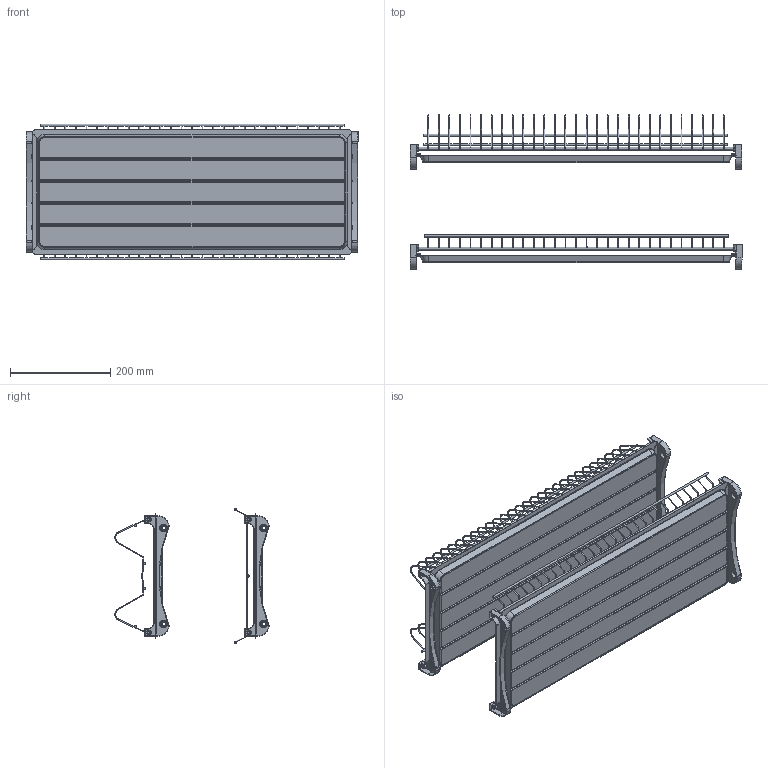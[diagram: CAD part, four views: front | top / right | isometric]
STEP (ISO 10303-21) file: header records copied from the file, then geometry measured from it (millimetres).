
FILE_DESCRIPTION(/* description */ (''),/* implementation_level */ '2;1');
FILE_NAME(/* name */ 'D:\$WorkingFolder\Designs\Meblowka\ociekarki\OC-2PV...-02-18\OC-2PV3..-02-18\OC-2PV370-02-18.stp',/* time_stamp */ '2020-11-20T08:46:18+01:00',/* author */ ('ElizaL'),/* organization */ (''),/* preprocessor_version */ 'ST-DEVELOPER v18.1',/* originating_system */ 'Autodesk Inventor 2020',/* authorisation */ '');
FILE_SCHEMA (('AUTOMOTIVE_DESIGN { 1 0 10303 214 3 1 1 }'));
Products named in the file (5): OC-2PV370-02-18; OC-2PV370-02-18_ociekarka_1-05; mocowanie; OC-2PV370-02-18_tacka-05; OC-2PV370-02-18_ociekarka_2-05
Assembly tree (8 placements, depth 2):
  OC-2PV370-02-18
    mocowanie  x4
    OC-2PV370-02-18_tacka-05  x2
    OC-2PV370-02-18_ociekarka_1-05
    OC-2PV370-02-18_ociekarka_2-05
Bounding box: 664 x 308.42 x 271 mm (x, y, z)
Volume: 435361.1 mm3; surface area: 1067710.1 mm2
Topology: 8 solids, 8 shells, 1433 faces, 5298 edges, 3757 vertices
Faces by surface type: cylinder 678, plane 446, torus 293, cone 16
Full cylindrical faces by diameter (mm): 1.8 x87, 1.9 x348, 4 x7, 5 x4, 8 x8, 10.6 x8, 13 x8, 15.6 x8
Entity records: 59977 total; most frequent: CARTESIAN_POINT 22330, ORIENTED_EDGE 8512, DIRECTION 7970, EDGE_CURVE 4256, AXIS2_PLACEMENT_3D 3489, VERTEX_POINT 3075, CIRCLE 1779, EDGE_LOOP 1403
